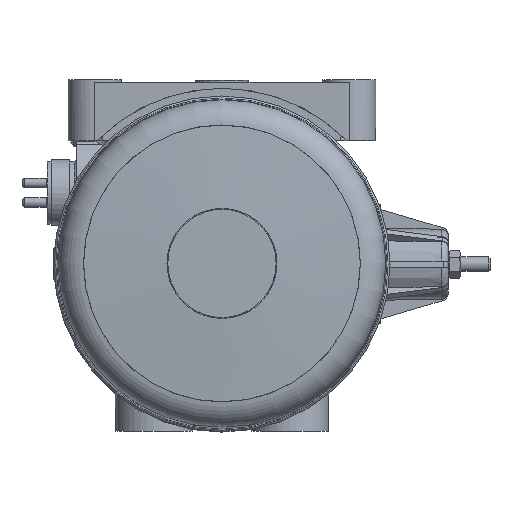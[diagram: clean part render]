
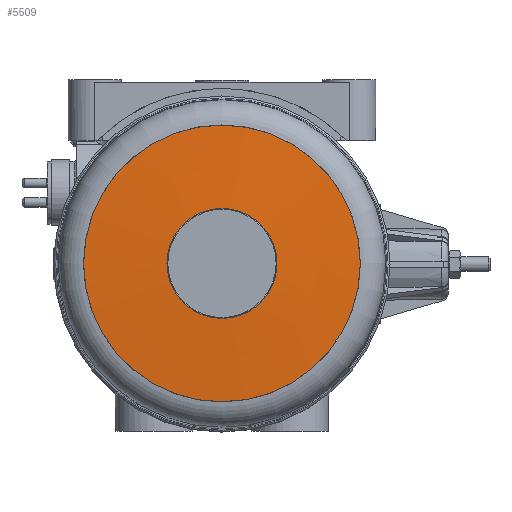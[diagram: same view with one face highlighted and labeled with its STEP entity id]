
A CAD part, top view. The second image highlights one B-rep face of the part: STEP entity #5509.
In plain terms, the highlighted conical face has half-angle 86.662 degrees and reference radius 57.141 mm.
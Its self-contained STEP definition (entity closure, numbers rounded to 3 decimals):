
#3368=CONICAL_SURFACE('',#40356,57.141,86.662);
#5509=ADVANCED_FACE('',(#12555,#12556),#3368,.T.);
#12555=FACE_BOUND('',#14773,.T.);
#12556=FACE_BOUND('',#14774,.T.);
#14773=EDGE_LOOP('',(#24337));
#14774=EDGE_LOOP('',(#24338));
#24337=ORIENTED_EDGE('',*,*,#34505,.F.);
#24338=ORIENTED_EDGE('',*,*,#34506,.T.);
#29334=VERTEX_POINT('',#70495);
#29335=VERTEX_POINT('',#70498);
#34505=EDGE_CURVE('',#29334,#29334,#36937,.T.);
#34506=EDGE_CURVE('',#29335,#29335,#36938,.T.);
#36937=CIRCLE('',#40353,22.704);
#36938=CIRCLE('',#40355,57.141);
#40353=AXIS2_PLACEMENT_3D('',#70494,#49383,#49384);
#40355=AXIS2_PLACEMENT_3D('',#70497,#49387,#49388);
#40356=AXIS2_PLACEMENT_3D('',#70499,#49389,#49390);
#49383=DIRECTION('',(0.,0.,1.));
#49384=DIRECTION('',(1.,0.,0.));
#49387=DIRECTION('',(0.,0.,1.));
#49388=DIRECTION('',(-1.,0.,0.));
#49389=DIRECTION('',(0.,0.,-1.));
#49390=DIRECTION('',(1.,0.,0.));
#70494=CARTESIAN_POINT('',(0.,0.,180.99));
#70495=CARTESIAN_POINT('',(22.704,0.,180.99));
#70497=CARTESIAN_POINT('',(0.,0.,178.981));
#70498=CARTESIAN_POINT('',(-57.141,0.,178.981));
#70499=CARTESIAN_POINT('',(0.,0.,178.981));
